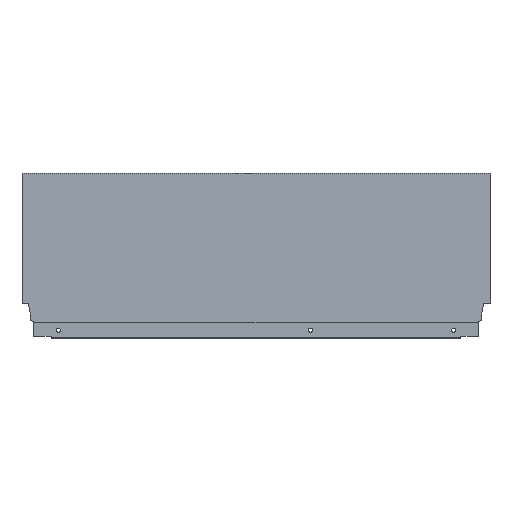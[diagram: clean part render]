
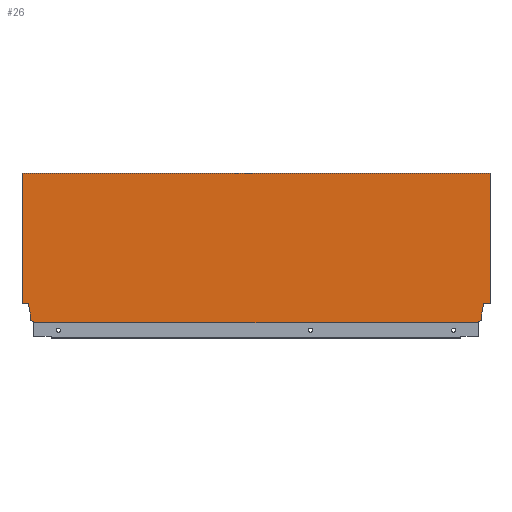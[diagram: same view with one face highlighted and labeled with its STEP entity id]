
A CAD part, top view. The second image highlights one B-rep face of the part: STEP entity #26.
In plain terms, the highlighted planar face has unit normal (0, 0, 1).
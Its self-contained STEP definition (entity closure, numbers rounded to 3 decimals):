
#26 = ADVANCED_FACE ( 'NONE', ( #569 ), #1261, .T. ) ;
#198 = LINE ( 'NONE', #328, #221 ) ;
#200 = VECTOR ( 'NONE', #283, 1000. ) ;
#203 = LINE ( 'NONE', #331, #204 ) ;
#204 = VECTOR ( 'NONE', #329, 1000. ) ;
#206 = LINE ( 'NONE', #285, #200 ) ;
#207 = LINE ( 'NONE', #324, #208 ) ;
#208 = VECTOR ( 'NONE', #323, 1000. ) ;
#211 = LINE ( 'NONE', #318, #212 ) ;
#212 = VECTOR ( 'NONE', #317, 1000. ) ;
#213 = LINE ( 'NONE', #316, #214 ) ;
#214 = VECTOR ( 'NONE', #315, 1000. ) ;
#215 = LINE ( 'NONE', #313, #216 ) ;
#216 = VECTOR ( 'NONE', #312, 1000. ) ;
#217 = LINE ( 'NONE', #311, #218 ) ;
#218 = VECTOR ( 'NONE', #310, 1000. ) ;
#219 = LINE ( 'NONE', #309, #220 ) ;
#220 = VECTOR ( 'NONE', #308, 1000. ) ;
#221 = VECTOR ( 'NONE', #305, 1000. ) ;
#222 = LINE ( 'NONE', #304, #223 ) ;
#223 = VECTOR ( 'NONE', #303, 1000. ) ;
#224 = LINE ( 'NONE', #301, #225 ) ;
#225 = VECTOR ( 'NONE', #300, 1000. ) ;
#226 = LINE ( 'NONE', #298, #227 ) ;
#227 = VECTOR ( 'NONE', #297, 1000. ) ;
#228 = LINE ( 'NONE', #295, #229 ) ;
#229 = VECTOR ( 'NONE', #294, 1000. ) ;
#230 = LINE ( 'NONE', #293, #231 ) ;
#231 = VECTOR ( 'NONE', #292, 1000. ) ;
#283 = DIRECTION ( 'NONE',  ( 0., 1., 0. ) ) ;
#285 = CARTESIAN_POINT ( 'NONE',  ( -501.996, 1.146, 7.5 ) ) ;
#292 = DIRECTION ( 'NONE',  ( 1., 0., 0. ) ) ;
#293 = CARTESIAN_POINT ( 'NONE',  ( -515., 0., 7.5 ) ) ;
#294 = DIRECTION ( 'NONE',  ( -1., 0., 0. ) ) ;
#295 = CARTESIAN_POINT ( 'NONE',  ( -520., 21.2, 7.5 ) ) ;
#297 = DIRECTION ( 'NONE',  ( -0.174, 0.985, 0. ) ) ;
#298 = CARTESIAN_POINT ( 'NONE',  ( -507.94, 21.2, 7.5 ) ) ;
#300 = DIRECTION ( 'NONE',  ( 0., 1., 0. ) ) ;
#301 = CARTESIAN_POINT ( 'NONE',  ( -506.1, 10.765, 7.5 ) ) ;
#303 = DIRECTION ( 'NONE',  ( -0.94, 0.342, 0. ) ) ;
#304 = CARTESIAN_POINT ( 'NONE',  ( -506.1, 2.64, 7.5 ) ) ;
#305 = DIRECTION ( 'NONE',  ( 0., -1., 0. ) ) ;
#308 = DIRECTION ( 'NONE',  ( 0., -1., 0. ) ) ;
#309 = CARTESIAN_POINT ( 'NONE',  ( -515., 0., 7.5 ) ) ;
#310 = DIRECTION ( 'NONE',  ( -0.94, -0.342, 0. ) ) ;
#311 = CARTESIAN_POINT ( 'NONE',  ( -8.9, 2.64, 7.5 ) ) ;
#312 = DIRECTION ( 'NONE',  ( 0., -1., 0. ) ) ;
#313 = CARTESIAN_POINT ( 'NONE',  ( -8.9, 10.765, 7.5 ) ) ;
#315 = DIRECTION ( 'NONE',  ( 0., -1., 0. ) ) ;
#316 = CARTESIAN_POINT ( 'NONE',  ( 0., 0., 7.5 ) ) ;
#317 = DIRECTION ( 'NONE',  ( -0.174, -0.985, 0. ) ) ;
#318 = CARTESIAN_POINT ( 'NONE',  ( -7.06, 21.2, 7.5 ) ) ;
#323 = DIRECTION ( 'NONE',  ( -1., 0., 0. ) ) ;
#324 = CARTESIAN_POINT ( 'NONE',  ( 0., 21.2, 7.5 ) ) ;
#328 = CARTESIAN_POINT ( 'NONE',  ( -13.004, 1.146, 7.5 ) ) ;
#329 = DIRECTION ( 'NONE',  ( 1., 0., 0. ) ) ;
#331 = CARTESIAN_POINT ( 'NONE',  ( -515., 164.7, 7.5 ) ) ;
#569 = FACE_OUTER_BOUND ( 'NONE', #618, .T. ) ;
#618 = EDGE_LOOP ( 'NONE', ( #709, #710, #708, #712, #711, #713, #714, #715, #717, #716, #718, #695, #696, #697 ) ) ;
#695 = ORIENTED_EDGE ( 'NONE', *, *, #1459, .F. ) ;
#696 = ORIENTED_EDGE ( 'NONE', *, *, #1462, .F. ) ;
#697 = ORIENTED_EDGE ( 'NONE', *, *, #1457, .F. ) ;
#708 = ORIENTED_EDGE ( 'NONE', *, *, #1469, .F. ) ;
#709 = ORIENTED_EDGE ( 'NONE', *, *, #1465, .T. ) ;
#710 = ORIENTED_EDGE ( 'NONE', *, *, #1470, .F. ) ;
#711 = ORIENTED_EDGE ( 'NONE', *, *, #1467, .F. ) ;
#712 = ORIENTED_EDGE ( 'NONE', *, *, #1468, .F. ) ;
#713 = ORIENTED_EDGE ( 'NONE', *, *, #1474, .F. ) ;
#714 = ORIENTED_EDGE ( 'NONE', *, *, #1471, .T. ) ;
#715 = ORIENTED_EDGE ( 'NONE', *, *, #1466, .F. ) ;
#716 = ORIENTED_EDGE ( 'NONE', *, *, #1463, .F. ) ;
#717 = ORIENTED_EDGE ( 'NONE', *, *, #1464, .F. ) ;
#718 = ORIENTED_EDGE ( 'NONE', *, *, #1461, .F. ) ;
#952 = CARTESIAN_POINT ( 'NONE',  ( -8.9, 10.765, 7.5 ) ) ;
#955 = CARTESIAN_POINT ( 'NONE',  ( -8.9, 2.64, 7.5 ) ) ;
#963 = CARTESIAN_POINT ( 'NONE',  ( -13.004, 0., 7.5 ) ) ;
#964 = CARTESIAN_POINT ( 'NONE',  ( -507.94, 21.2, 7.5 ) ) ;
#969 = CARTESIAN_POINT ( 'NONE',  ( 0., 21.2, 7.5 ) ) ;
#974 = CARTESIAN_POINT ( 'NONE',  ( -13.004, 1.146, 7.5 ) ) ;
#975 = CARTESIAN_POINT ( 'NONE',  ( -515., 164.7, 7.5 ) ) ;
#988 = CARTESIAN_POINT ( 'NONE',  ( 0., 164.7, 7.5 ) ) ;
#992 = CARTESIAN_POINT ( 'NONE',  ( -7.06, 21.2, 7.5 ) ) ;
#997 = CARTESIAN_POINT ( 'NONE',  ( -501.996, 1.146, 7.5 ) ) ;
#999 = CARTESIAN_POINT ( 'NONE',  ( -506.1, 2.64, 7.5 ) ) ;
#1017 = CARTESIAN_POINT ( 'NONE',  ( -506.1, 10.765, 7.5 ) ) ;
#1044 = CARTESIAN_POINT ( 'NONE',  ( -501.996, 0., 7.5 ) ) ;
#1045 = CARTESIAN_POINT ( 'NONE',  ( -515., 21.2, 7.5 ) ) ;
#1095 = VERTEX_POINT ( 'NONE', #952 ) ;
#1097 = VERTEX_POINT ( 'NONE', #999 ) ;
#1106 = VERTEX_POINT ( 'NONE', #997 ) ;
#1113 = VERTEX_POINT ( 'NONE', #992 ) ;
#1124 = VERTEX_POINT ( 'NONE', #988 ) ;
#1152 = VERTEX_POINT ( 'NONE', #974 ) ;
#1155 = VERTEX_POINT ( 'NONE', #975 ) ;
#1189 = VERTEX_POINT ( 'NONE', #955 ) ;
#1198 = VERTEX_POINT ( 'NONE', #969 ) ;
#1207 = VERTEX_POINT ( 'NONE', #964 ) ;
#1214 = VERTEX_POINT ( 'NONE', #963 ) ;
#1247 = DIRECTION ( 'NONE',  ( 1., 0., 0. ) ) ;
#1248 = DIRECTION ( 'NONE',  ( 0., 0., 1. ) ) ;
#1255 = CARTESIAN_POINT ( 'NONE',  ( -515., 0., 7.5 ) ) ;
#1257 = VERTEX_POINT ( 'NONE', #1017 ) ;
#1261 = PLANE ( 'NONE',  #1500 ) ;
#1347 = VERTEX_POINT ( 'NONE', #1044 ) ;
#1348 = VERTEX_POINT ( 'NONE', #1045 ) ;
#1457 = EDGE_CURVE ( 'NONE', #1155, #1124, #203, .T. ) ;
#1459 = EDGE_CURVE ( 'NONE', #1198, #1113, #207, .T. ) ;
#1461 = EDGE_CURVE ( 'NONE', #1113, #1095, #211, .T. ) ;
#1462 = EDGE_CURVE ( 'NONE', #1124, #1198, #213, .T. ) ;
#1463 = EDGE_CURVE ( 'NONE', #1095, #1189, #215, .T. ) ;
#1464 = EDGE_CURVE ( 'NONE', #1189, #1152, #217, .T. ) ;
#1465 = EDGE_CURVE ( 'NONE', #1155, #1348, #219, .T. ) ;
#1466 = EDGE_CURVE ( 'NONE', #1152, #1214, #198, .T. ) ;
#1467 = EDGE_CURVE ( 'NONE', #1106, #1097, #222, .T. ) ;
#1468 = EDGE_CURVE ( 'NONE', #1097, #1257, #224, .T. ) ;
#1469 = EDGE_CURVE ( 'NONE', #1257, #1207, #226, .T. ) ;
#1470 = EDGE_CURVE ( 'NONE', #1207, #1348, #228, .T. ) ;
#1471 = EDGE_CURVE ( 'NONE', #1347, #1214, #230, .T. ) ;
#1474 = EDGE_CURVE ( 'NONE', #1347, #1106, #206, .T. ) ;
#1500 = AXIS2_PLACEMENT_3D ( 'NONE', #1255, #1248, #1247 ) ;
